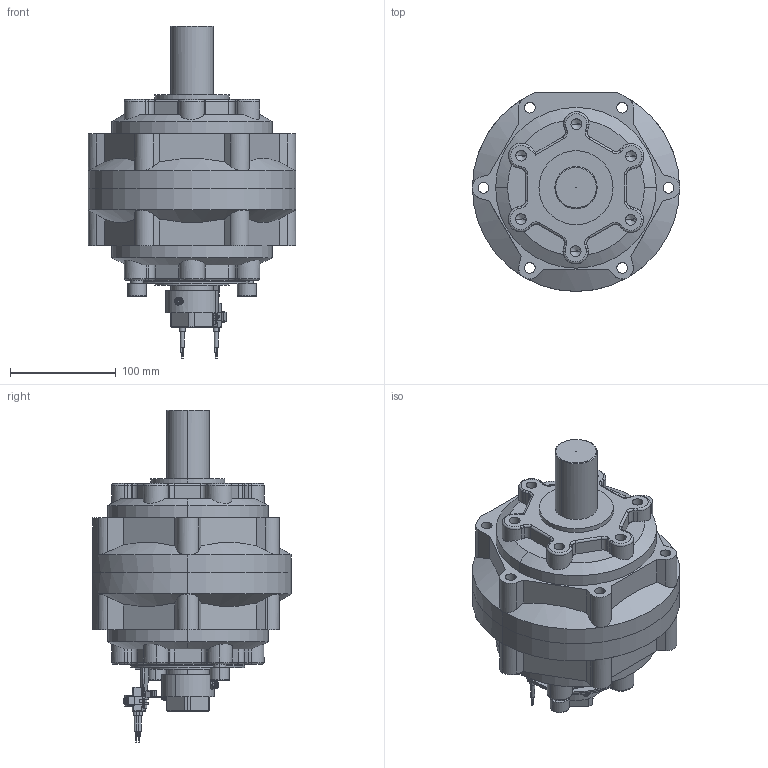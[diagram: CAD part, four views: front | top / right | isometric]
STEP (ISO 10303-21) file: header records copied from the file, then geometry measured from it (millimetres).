
FILE_DESCRIPTION (( 'STEP AP203' ), '1' );
FILE_NAME ('PRN800#-#-#-#-FM-#.STEP', '2016-01-14T16:50:46', ( '' ), ( '' ), 'SwSTEP 2.0', 'SolidWorks 2014', '' );
FILE_SCHEMA (( 'CONFIG_CONTROL_DESIGN' ));
Length unit declared in the file: millimetre
Products named in the file (19): ISO 4762 M12 x 30; 零件5; 800FM-300FM-M4螺帽; PRN800 (3); 800FM-300FM-M4螺絲; 800FM-300FM-150-50-FM; 800FM-300FM-零件5; d70; D108; PRN800 (2); mark-PRN800; 800FM-300FM-150-圓軸; PRN800#-#-#-#-FM-#; 感應開關-800; PRN800 (1); 1; 800FM-300FM-150-FM; M4螺絲; 側鐵片
Assembly tree (23 placements, depth 3):
  PRN800#-#-#-#-FM-#
    PRN800 (1)
    PRN800 (2)
    PRN800 (3)
    mark-PRN800
    800FM-300FM-150-FM
      800FM-300FM-零件5
      800FM-300FM-M4螺絲  x3
      800FM-300FM-M4螺帽
      800FM-300FM-150-50-FM
      800FM-300FM-150-圓軸
      d70
      D108
      零件5  x2
    ISO 4762 M12 x 30  x2
    感應開關-800  x2
      1
      側鐵片
      M4螺絲
Bounding box: 196 x 188.2 x 314 mm (x, y, z)
Volume: 3786613 mm3; surface area: 335751.4 mm2
Topology: 33 solids, 33 shells, 1010 faces, 2493 edges, 1543 vertices
Faces by surface type: plane 467, cylinder 329, cone 109, torus 79, sphere 18, bspline 8
Entity records: 26350 total; most frequent: CARTESIAN_POINT 5490, DIRECTION 4096, ORIENTED_EDGE 3778, EDGE_CURVE 1889, AXIS2_PLACEMENT_3D 1555, VERTEX_POINT 1193, VECTOR 986, LINE 986
